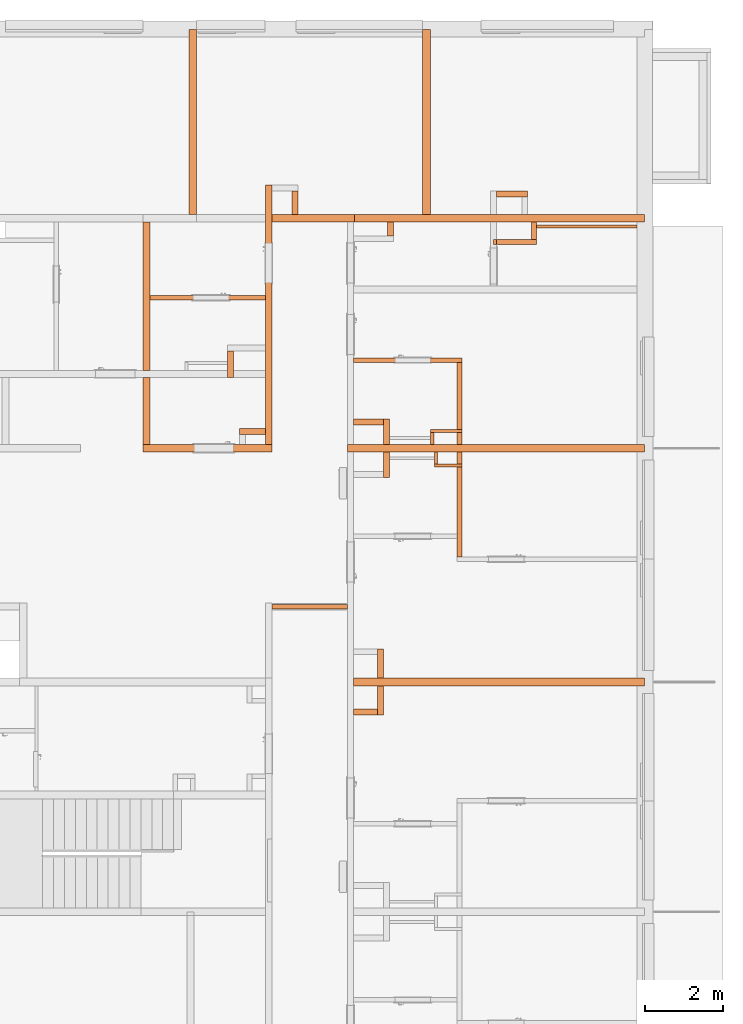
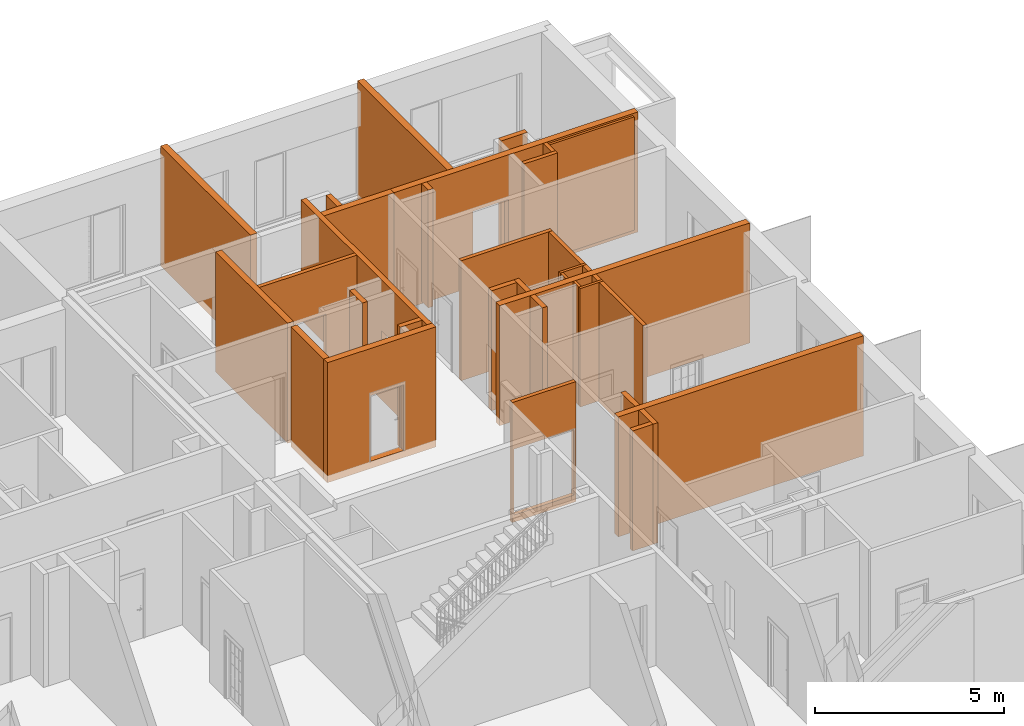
# One storey, part 45 of 46: 32 proxies, 8 openings.
"""IFC2X3 building model written with IfcOpenShell, lengths in millimetres."""

from ifc_helpers import new_model, entity, si_unit, converted_unit, derived_unit, money_unit, direction, frame, origin_with_axes, origin_2d_with_axis, place, context, subcontext, project, spatial, rectangle, extrude, faceted_brep, material, material_list, type_object, element, save


model = new_model("IFC2X3")

# Units and contexts
model_context = context("Model", 3, precision=0.01, world=origin_with_axes(), true_north=direction((0.34421633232, 0.938890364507)))
body_context = subcontext(model_context, "Body", "Model", "MODEL_VIEW")
ifc_project = project(units=[si_unit("LENGTHUNIT", "METRE", prefix="MILLI"), si_unit("AREAUNIT", "SQUARE_METRE"), si_unit("VOLUMEUNIT", "CUBIC_METRE"), converted_unit("PLANEANGLEUNIT", "DEGREE", entity("IfcPlaneAngleMeasure", 0.0174532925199), si_unit("PLANEANGLEUNIT", "RADIAN"), dimensions=[0, 0, 0, 0, 0, 0, 0]), si_unit("SOLIDANGLEUNIT", "STERADIAN"), money_unit("USD"), converted_unit("TIMEUNIT", "Year", entity("IfcTimeMeasure", 31556926.0), si_unit("TIMEUNIT", "SECOND"), dimensions=[0, 0, 1, 0, 0, 0, 0]), si_unit("MASSUNIT", "GRAM", prefix="KILO"), si_unit("THERMODYNAMICTEMPERATUREUNIT", "DEGREE_CELSIUS"), si_unit("LUMINOUSINTENSITYUNIT", "LUMEN"), si_unit("ENERGYUNIT", "JOULE", prefix="MEGA"), derived_unit("THERMALCONDUCTANCEUNIT", [(si_unit("POWERUNIT", "WATT"), 1), (si_unit("LENGTHUNIT", "METRE"), -1), (si_unit("THERMODYNAMICTEMPERATUREUNIT", "KELVIN"), -1)]), derived_unit("SPECIFICHEATCAPACITYUNIT", [(si_unit("ENERGYUNIT", "JOULE"), 1), (si_unit("MASSUNIT", "GRAM", prefix="KILO"), -1), (si_unit("THERMODYNAMICTEMPERATUREUNIT", "KELVIN"), -1)]), derived_unit("MASSDENSITYUNIT", [(si_unit("MASSUNIT", "GRAM", prefix="KILO"), 1), (si_unit("VOLUMEUNIT", "CUBIC_METRE"), -1)])], contexts=[model_context])

# Site, building, storey
site_placement = place(None, origin_with_axes())
site = spatial("IfcSite", under=ifc_project, at=site_placement, Name="USTRONIE MORSKIE", CompositionType="ELEMENT")
building_placement = place(site_placement, origin_with_axes())
building = spatial("IfcBuilding", under=site, at=building_placement, Name="Budynek", CompositionType="ELEMENT")
storey_placement = place(building_placement, origin_with_axes())
storey = spatial("IfcBuildingStorey", under=building, at=storey_placement, Name="PARTER", CompositionType="ELEMENT", Elevation=0.0)

# Proxy
ifc_material_1 = material(Name="Bloczki silikatowe")
building_element_proxy_type_1 = type_object("IfcBuildingElementProxyType", Name="Bloczki silikatowe 120", PredefinedType="NOTDEFINED")
proxy_1_placement = place(storey_placement, frame((422827.920919, 744091.199036, -230.0), z_axis=(0.0, 0.0, 1.0), x_axis=(0.0, 1.0, 0.0)))
element("IfcBuildingElementProxy", 1, at=proxy_1_placement, inside=storey, type_object=building_element_proxy_type_1, material=ifc_material_1, Name="SW-04", context=body_context, shape_type="Brep", body=[
    faceted_brep([(510.0, -60.0, 3870.0), (510.0, 60.0, 3870.0), (59.9999999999, 60.0, 3870.0), (59.9999999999, -60.0, 3870.0), (510.0, -60.0, 0.0), (510.0, 60.0, 0.0), (59.9999999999, 60.0, 0.0), (59.9999999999, -60.0, 0.0)], [[[0, 1, 2, 3]], [[1, 0, 4, 5]], [[1, 5, 6, 2]], [[7, 3, 2, 6]], [[4, 0, 3, 7]], [[5, 4, 7, 6]]]),
])

# Proxy, opening
proxy_2_placement = place(storey_placement, frame((418117.920919, 734731.199175, -230.0), z_axis=(0.0, 0.0, 1.0), x_axis=(-1.0, 0.0, 0.0)))
proxy_2 = element("IfcBuildingElementProxy", 2, at=proxy_2_placement, inside=storey, type_object=building_element_proxy_type_1, material=ifc_material_1, Name="SW-04", context=body_context, shape_type="Brep", body=[
    faceted_brep([(2020.00264606, -59.9999999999, 3870.0), (2020.00264606, 59.9999999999, 3870.0), (80.0, 59.9999999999, 3870.0), (80.0, -59.9999999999, 3870.0), (2020.00264606, -59.9999999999, 0.0), (2020.00264606, 59.9999999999, 0.0), (80.0, 59.9999999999, 0.0), (80.0, -59.9999999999, 0.0)], [[[0, 1, 2, 3]], [[1, 0, 4, 5]], [[1, 5, 6, 2]], [[7, 3, 2, 6]], [[4, 0, 3, 7]], [[5, 4, 7, 6]]]),
])
opening_1_placement = place(proxy_2_placement, frame((1050.0, 0.0, 230.0), z_axis=(0.0, 0.0, 1.0), x_axis=(1.0, 0.0, 0.0)))
element("IfcOpeningElement", 3, at=opening_1_placement, cuts=proxy_2, Name="Dw.5", context=body_context, shape_type="SweptSolid", body=[
    extrude(rectangle(XDim=1820.0, YDim=2120.0, at=origin_2d_with_axis()), frame((0.0, -120.0, 1060.0), z_axis=(0.0, 1.0, 0.0), x_axis=(1.0, 0.0, 0.0)), (0.0, 0.0, 1.0), 360.0),
    extrude(rectangle(XDim=1894.0, YDim=2157.0, at=origin_2d_with_axis()), frame((0.0, -59.9999999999, 1078.5), z_axis=(0.0, 1.0, 0.0), x_axis=(1.0, 0.0, 0.0)), (0.0, 0.0, -1.0), 120.0),
    extrude(rectangle(XDim=1894.0, YDim=2157.0, at=origin_2d_with_axis()), frame((0.0, 60.0000000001, 1078.5), z_axis=(0.0, -1.0, 0.0), x_axis=(1.0, 0.0, 0.0)), (0.0, 0.0, -1.0), 120.0),
])

proxy_3_placement = place(storey_placement, frame((420917.920919, 741061.20794, -230.0), z_axis=(0.0, 0.0, 1.0), x_axis=(-1.0, 0.0, 0.0)))
proxy_3 = element("IfcBuildingElementProxy", 4, at=proxy_3_placement, inside=storey, type_object=building_element_proxy_type_1, material=ifc_material_1, Name="SW-04", context=body_context, shape_type="Brep", body=[
    faceted_brep([(2720.0, -59.9999999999, 3870.0), (2720.0, 59.9999999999, 3870.0), (-60.0, 59.9999999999, 3870.0), (-60.0, -59.9999999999, 3870.0), (2720.0, -59.9999999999, 0.0), (2720.0, 59.9999999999, 0.0), (-60.0, 59.9999999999, 0.0), (-60.0, -59.9999999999, 0.0)], [[[0, 1, 2, 3]], [[1, 0, 4, 5]], [[1, 5, 6, 2]], [[7, 3, 2, 6]], [[4, 0, 3, 7]], [[5, 4, 7, 6]]]),
])
opening_2_placement = place(proxy_3_placement, frame((1200.0, 0.0, 230.0), z_axis=(0.0, 0.0, 1.0), x_axis=(1.0, 0.0, 0.0)))
element("IfcOpeningElement", 5, at=opening_2_placement, cuts=proxy_3, Name="Dw.4", context=body_context, shape_type="SweptSolid", body=[
    extrude(rectangle(XDim=920.0, YDim=2070.0, at=origin_2d_with_axis()), frame((0.0, 120.0, 1035.0), z_axis=(0.0, -1.0, 0.0), x_axis=(-1.0, 0.0, 0.0)), (0.0, 0.0, 1.0), 360.0),
    extrude(rectangle(XDim=994.0, YDim=2177.0, at=origin_2d_with_axis()), frame((0.0, 60.0000000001, 1088.5), z_axis=(0.0, -1.0, 0.0), x_axis=(-1.0, 0.0, 0.0)), (0.0, 0.0, -1.0), 120.0),
    extrude(rectangle(XDim=994.0, YDim=2177.0, at=origin_2d_with_axis()), frame((0.0, -59.9999999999, 1088.5), z_axis=(0.0, 1.0, 0.0), x_axis=(-1.0, 0.0, 0.0)), (0.0, 0.0, -1.0), 120.0),
])

proxy_4_placement = place(storey_placement, frame((412877.920964, 742661.199128, -230.0), z_axis=(0.0, 0.0, 1.0), x_axis=(1.0, 0.0, 0.0)))
proxy_4 = element("IfcBuildingElementProxy", 6, at=proxy_4_placement, inside=storey, type_object=building_element_proxy_type_1, material=ifc_material_1, Name="SW-04", context=body_context, shape_type="Brep", body=[
    faceted_brep([(3059.99730875, -59.9999999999, 3870.0), (3059.99730875, 59.9999999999, 3870.0), (90.0, 59.9999999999, 3870.0), (90.0, -59.9999999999, 3870.0), (3059.99730875, -59.9999999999, 0.0), (3059.99730875, 59.9999999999, 0.0), (90.0, 59.9999999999, 0.0), (90.0, -59.9999999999, 0.0)], [[[0, 1, 2, 3]], [[1, 0, 4, 5]], [[1, 5, 6, 2]], [[7, 3, 2, 6]], [[4, 0, 3, 7]], [[5, 4, 7, 6]]]),
])
opening_3_placement = place(proxy_4_placement, frame((1660.0, 0.0, 230.0), z_axis=(0.0, 0.0, 1.0), x_axis=(1.0, 0.0, 0.0)))
element("IfcOpeningElement", 7, at=opening_3_placement, cuts=proxy_4, Name="Dw.4", context=body_context, shape_type="SweptSolid", body=[
    extrude(rectangle(XDim=920.0, YDim=2070.0, at=origin_2d_with_axis()), frame((0.0, 120.0, 1035.0), z_axis=(0.0, 1.0, 0.0), x_axis=(-1.0, 0.0, 0.0)), (0.0, 0.0, -1.0), 360.0),
    extrude(rectangle(XDim=994.0, YDim=2177.0, at=origin_2d_with_axis()), frame((0.0, 60.0000000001, 1088.5), z_axis=(0.0, 1.0, 0.0), x_axis=(-1.0, 0.0, 0.0)), (0.0, 0.0, 1.0), 120.0),
    extrude(rectangle(XDim=994.0, YDim=2177.0, at=origin_2d_with_axis()), frame((0.0, -59.9999999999, 1088.5), z_axis=(0.0, -1.0, 0.0), x_axis=(-1.0, 0.0, 0.0)), (0.0, 0.0, 1.0), 120.0),
])

# Proxies
proxy_5_placement = place(storey_placement, frame((421792.920919, 744091.199036, -230.0), z_axis=(0.0, 0.0, 1.0), x_axis=(1.0, 0.0, 0.0)))
element("IfcBuildingElementProxy", 8, at=proxy_5_placement, inside=storey, type_object=building_element_proxy_type_1, material=ifc_material_1, Name="SW-04", context=body_context, shape_type="Brep", body=[
    faceted_brep([(0.0, 59.9999999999, 0.0), (0.0, 59.9999999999, 50.0), (75.0, 59.9999999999, 50.0), (75.0, 59.9999999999, 3870.0), (1095.0, 59.9999999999, 3870.0), (1095.0, 59.9999999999, 0.0), (0.0, -59.9999999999, 0.0), (0.0, -59.9999999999, 50.0), (75.0, -59.9999999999, 50.0), (75.0, -59.9999999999, 3870.0), (1095.0, -59.9999999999, 3870.0), (1095.0, -59.9999999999, 0.0)], [[[0, 1, 2, 3, 4, 5]], [[6, 7, 1, 0]], [[8, 2, 1, 7]], [[8, 9, 3, 2]], [[4, 3, 9, 10]], [[11, 5, 4, 10]], [[5, 11, 6, 0]], [[9, 8, 7, 6, 11, 10]]]),
])
proxy_6_placement = place(storey_placement, frame((420917.920919, 738801.202745, -230.0), z_axis=(0.0, 0.0, 1.0), x_axis=(0.0, 1.0, 0.0)))
element("IfcBuildingElementProxy", 9, at=proxy_6_placement, inside=storey, type_object=building_element_proxy_type_1, material=ifc_material_1, Name="SW-04", context=body_context, shape_type="Brep", body=[
    faceted_brep([(400.015445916, -60.0, 3870.0), (400.015445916, 60.0, 3870.0), (99.999912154, 60.0, 3870.0), (100.000087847, -60.0, 3870.0), (400.015445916, -60.0, 0.0), (400.015445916, 60.0, 0.0), (99.999912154, 60.0, 0.0), (100.000087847, -60.0, 0.0)], [[[0, 1, 2, 3]], [[1, 0, 4, 5]], [[1, 5, 6, 2]], [[7, 3, 2, 6]], [[4, 0, 3, 7]], [[5, 4, 7, 6]]]),
    faceted_brep([(2200.00519406, -60.0, 3870.0), (2200.00519406, 60.0, 3870.0), (480.015445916, 60.0, 3870.0), (480.015445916, -60.0, 3870.0), (2200.00519406, -60.0, 0.0), (2200.00519406, 60.0, 0.0), (480.015445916, 60.0, 0.0), (480.015445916, -60.0, 0.0)], [[[0, 1, 2, 3]], [[1, 0, 4, 5]], [[1, 5, 6, 2]], [[7, 3, 2, 6]], [[4, 0, 3, 7]], [[5, 4, 7, 6]]]),
])
proxy_7_placement = place(storey_placement, frame((420917.920919, 738801.199036, -230.0), z_axis=(0.0, 0.0, 1.0), x_axis=(0.0, -1.0, 0.0)))
element("IfcBuildingElementProxy", 10, at=proxy_7_placement, inside=storey, type_object=building_element_proxy_type_1, material=ifc_material_1, Name="SW-04", context=body_context, shape_type="Brep", body=[
    faceted_brep([(100.000390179, -60.0, 3869.99998101), (400.01915523, -60.0, 3870.0), (400.01915523, 60.0, 3870.0), (100.000390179, 60.0, 3869.99998101), (480.01915523, -60.0, 50.0), (400.01915523, -60.0, 50.0), (100.000390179, -60.0, 0.0), (2790.01935038, -60.0, 0.0), (2790.01935038, -60.0, 3870.0), (480.01915523, -60.0, 3870.0), (400.01915523, 60.0, 50.0), (480.01915523, 60.0, 50.0), (480.01915523, 60.0, 3870.0), (2790.01935038, 60.0, 3870.0), (2790.01935038, 60.0, 0.0), (100.000390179, 60.0, 0.0)], [[[0, 1, 2, 3]], [[4, 5, 1, 0, 6, 7, 8, 9]], [[5, 10, 2, 1]], [[10, 11, 12, 13, 14, 15, 3, 2]], [[6, 0, 3, 15]], [[4, 11, 10, 5]], [[7, 6, 15, 14]], [[13, 8, 7, 14]], [[13, 12, 9, 8]], [[4, 9, 12, 11]]]),
])
building_element_proxy_type_2 = type_object("IfcBuildingElementProxyType", Name="Bloczki silikatowe 180", PredefinedType="NOTDEFINED")
proxy_8_placement = place(storey_placement, frame((412877.920964, 744701.199036, -230.0), z_axis=(0.0, 0.0, 1.0), x_axis=(0.0, -1.0, 0.0)))
element("IfcBuildingElementProxy", 11, at=proxy_8_placement, inside=storey, type_object=building_element_proxy_type_2, material=ifc_material_1, Name="SW-02", context=body_context, shape_type="Brep", body=[
    faceted_brep([(5800.0, 90.0, 0.0), (5800.0, -90.0, 0.0), (4080.01956003, -90.0, 0.0), (4080.01956003, 90.0, 0.0), (5800.0, 90.0, 3870.0), (5800.0, -90.0, 3870.0), (4080.01956003, -90.0, 3870.0), (4080.01956003, 90.0, 3870.0)], [[[0, 1, 2, 3]], [[1, 0, 4, 5]], [[1, 5, 6, 2]], [[7, 3, 2, 6]], [[4, 0, 3, 7]], [[5, 4, 7, 6]]]),
    faceted_brep([(3900.01956003, 90.0, 0.0), (3900.01956003, -90.0, 0.0), (100.0, -90.0, 0.0), (100.0, 90.0, 0.0), (3900.01956003, 90.0, 3870.0), (3900.01956003, -90.0, 3870.0), (100.0, -90.0, 3870.0), (100.0, 90.0, 3870.0)], [[[0, 1, 2, 3]], [[1, 0, 4, 5]], [[1, 5, 6, 2]], [[7, 3, 2, 6]], [[4, 0, 3, 7]], [[5, 4, 7, 6]]]),
])
ifc_material_2 = material(Name="-Pustka powietrzna")
ifc_material_3 = material(Name="Płyta GK")
ifc_material_list = material_list([ifc_material_2, ifc_material_3, ifc_material_3])
building_element_proxy_type_3 = type_object("IfcBuildingElementProxyType", Name="330-SD GK 2-warstwy 75", PredefinedType="NOTDEFINED")
proxy_9_placement = place(storey_placement, frame((422827.920919, 744481.199036, -180.0), z_axis=(0.0, 0.0, 1.0), x_axis=(1.0, 0.0, 0.0)))
element("IfcBuildingElementProxy", 12, at=proxy_9_placement, inside=storey, type_object=building_element_proxy_type_3, material=ifc_material_list, Name="Ściana-009", context=body_context, shape_type="Brep", body=[
    faceted_brep([(2639.99960996, -7.95807864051e-10, 180.0), (2639.99960929, 49.9999999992, 180.0), (2640.0, 49.9999999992, 3820.0), (2640.0, -7.95807864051e-10, 3820.0), (60.0, 50.0, 180.0), (60.0, 0.0, 180.0), (60.0, 50.0, 3820.0), (60.0, 0.0, 3820.0)], [[[0, 1, 2, 3]], [[4, 1, 0, 5]], [[1, 4, 6, 2]], [[7, 3, 2, 6]], [[5, 0, 3, 7]], [[4, 5, 7, 6]]]),
    faceted_brep([(2639.99961013, -12.5000000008, 165.0), (2639.99960996, -7.95807864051e-10, 165.0), (2640.0, -7.95807864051e-10, 3820.0), (2640.0, -12.5000000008, 3820.0), (60.0, 0.0, 165.0), (60.0, -12.5, 165.0), (60.0, 0.0, 3820.0), (60.0, -12.5, 3820.0)], [[[0, 1, 2, 3]], [[4, 1, 0, 5]], [[1, 4, 6, 2]], [[7, 3, 2, 6]], [[5, 0, 3, 7]], [[4, 5, 7, 6]]]),
    faceted_brep([(2639.99961029, -25.0000000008, 165.0), (2639.99961013, -12.5000000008, 165.0), (2640.0, -12.5000000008, 3820.0), (2640.0, -25.0000000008, 3820.0), (60.0, -12.5, 165.0), (60.0, -25.0, 165.0), (60.0, -12.5, 3820.0), (60.0, -25.0, 3820.0)], [[[0, 1, 2, 3]], [[4, 1, 0, 5]], [[1, 4, 6, 2]], [[7, 3, 2, 6]], [[5, 0, 3, 7]], [[4, 5, 7, 6]]]),
])
building_element_proxy_type_4 = type_object("IfcBuildingElementProxyType", Name="Bloczki silikatowe 80", PredefinedType="NOTDEFINED")
proxy_10_placement = place(storey_placement, frame((420217.920919, 738801.19863, -230.0), z_axis=(0.0, 0.0, 1.0), x_axis=(0.0, 1.0, 0.0)))
element("IfcBuildingElementProxy", 13, at=proxy_10_placement, inside=storey, type_object=building_element_proxy_type_4, material=ifc_material_1, Name="Ściana-010", context=body_context, shape_type="Brep", body=[
    faceted_brep([(400.019561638, -40.0, 3870.0), (400.019561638, 40.0, 3870.0), (100.003032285, 40.0, 3870.0), (100.003149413, -40.0, 3870.0), (400.019561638, -40.0, 0.0), (400.019561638, 40.0, 0.0), (100.003032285, 40.0, 0.0), (100.003149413, -40.0, 0.0)], [[[0, 1, 2, 3]], [[1, 0, 4, 5]], [[1, 5, 6, 2]], [[7, 3, 2, 6]], [[4, 0, 3, 7]], [[5, 4, 7, 6]]]),
])
proxy_11_placement = place(storey_placement, frame((420917.920919, 738361.179881, -180.0), z_axis=(0.0, 0.0, 1.0), x_axis=(-1.0, 0.0, 0.0)))
element("IfcBuildingElementProxy", 14, at=proxy_11_placement, inside=storey, type_object=building_element_proxy_type_4, material=ifc_material_1, Name="Ściana-009", context=body_context, shape_type="Brep", body=[
    faceted_brep([(640.0, 40.0, 0.0), (640.0, -40.0, 0.0), (-60.0, -40.0, 0.0), (-60.0, 40.0, 0.0), (640.0, 40.0, 3820.0), (640.0, -40.0, 3820.0), (-60.0, -40.0, 3820.0), (-60.0, 40.0, 3820.0)], [[[0, 1, 2, 3]], [[1, 0, 4, 5]], [[1, 5, 6, 2]], [[7, 3, 2, 6]], [[4, 0, 3, 7]], [[5, 4, 7, 6]]]),
])
proxy_12_placement = place(storey_placement, frame((420917.920919, 739241.218191, -230.0), z_axis=(0.0, 0.0, 1.0), x_axis=(-1.0, 0.0, 0.0)))
element("IfcBuildingElementProxy", 15, at=proxy_12_placement, inside=storey, type_object=building_element_proxy_type_4, material=ifc_material_1, Name="Ściana-009", context=body_context, shape_type="Brep", body=[
    faceted_brep([(740.0, -40.0, 3870.0), (740.0, 40.0, 3870.0), (-60.0, 40.0, 3870.0), (-60.0, -40.0, 3870.0), (740.0, -40.0, 0.0), (740.0, 40.0, 0.0), (-60.0, 40.0, 0.0), (-60.0, -40.0, 0.0)], [[[0, 1, 2, 3]], [[1, 0, 4, 5]], [[1, 5, 6, 2]], [[7, 3, 2, 6]], [[4, 0, 3, 7]], [[5, 4, 7, 6]]]),
])
proxy_13_placement = place(storey_placement, frame((420317.920919, 738801.201867, -180.0), z_axis=(0.0, 0.0, 1.0), x_axis=(0.0, -1.0, 0.0)))
element("IfcBuildingElementProxy", 16, at=proxy_13_placement, inside=storey, type_object=building_element_proxy_type_4, material=ifc_material_1, Name="Ściana-010", context=body_context, shape_type="Brep", body=[
    faceted_brep([(400.021986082, 40.0, 0.0), (400.021986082, -40.0, 0.0), (100.000058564, -40.0, 0.0), (99.999941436, 40.0, 0.0), (400.021986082, 40.0, 3820.0), (400.021986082, -40.0, 3820.0), (100.000058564, -40.0, 3820.0), (99.999941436, 40.0, 3820.0)], [[[0, 1, 2, 3]], [[1, 0, 4, 5]], [[1, 5, 6, 2]], [[7, 3, 2, 6]], [[4, 0, 3, 7]], [[5, 4, 7, 6]]]),
])
building_element_proxy_type_5 = type_object("IfcBuildingElementProxyType", Name="Bloczki silikatowe 150", PredefinedType="NOTDEFINED")
proxy_14_placement = place(storey_placement, frame((419042.92182, 738801.200841, -230.0), z_axis=(0.0, 0.0, 1.0), x_axis=(0.0, -1.0, 0.0)))
element("IfcBuildingElementProxy", 17, at=proxy_14_placement, inside=storey, type_object=building_element_proxy_type_5, material=ifc_material_1, Name="Ściana-009", context=body_context, shape_type="Brep", body=[
    faceted_brep([(749.999518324, 75.0, 0.0), (749.999518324, -75.0, 0.0), (100.000950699, -75.0, 0.0), (100.000731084, 75.0, 0.0), (749.999518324, 75.0, 3870.0), (749.999518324, -75.0, 3870.0), (100.000950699, -75.0, 3870.0), (100.000731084, 75.0, 3870.0)], [[[0, 1, 2, 3]], [[1, 0, 4, 5]], [[1, 5, 6, 2]], [[7, 3, 2, 6]], [[4, 0, 3, 7]], [[5, 4, 7, 6]]]),
])
proxy_15_placement = place(storey_placement, frame((415042.919124, 740711.179476, -230.0), z_axis=(0.0, 0.0, 1.0), x_axis=(0.0, 1.0, 0.0)))
element("IfcBuildingElementProxy", 18, at=proxy_15_placement, inside=storey, type_object=building_element_proxy_type_5, material=ifc_material_1, Name="SW-04", context=body_context, shape_type="Brep", body=[
    faceted_brep([(590.00090117, 75.0, 0.0), (590.00090117, -75.0, 0.0), (-90.0, -75.0, 0.0), (-90.0, 75.0, 0.0), (590.00090117, 75.0, 3870.0), (590.00090117, -75.0, 3870.0), (-90.0, -75.0, 3870.0), (-90.0, 75.0, 3870.0)], [[[0, 1, 2, 3]], [[1, 0, 4, 5]], [[1, 5, 6, 2]], [[7, 3, 2, 6]], [[4, 0, 3, 7]], [[5, 4, 7, 6]]]),
])
proxy_16_placement = place(storey_placement, frame((418817.920919, 732101.199036, -230.0), z_axis=(0.0, 0.0, 1.0), x_axis=(-1.0, 0.0, 0.0)))
element("IfcBuildingElementProxy", 19, at=proxy_16_placement, inside=storey, type_object=building_element_proxy_type_5, material=ifc_material_1, Name="SW-03", context=body_context, shape_type="Brep", body=[
    faceted_brep([(620.0, 150.0, 0.0), (620.0, 0.0, 0.0), (0.0, 0.0, 0.0), (0.0, 150.0, 0.0), (620.0, 150.0, 3870.0), (620.0, 0.0, 3870.0), (0.0, 0.0, 3870.0), (0.0, 150.0, 3870.0)], [[[0, 1, 2, 3]], [[1, 0, 4, 5]], [[1, 5, 6, 2]], [[7, 3, 2, 6]], [[4, 0, 3, 7]], [[5, 4, 7, 6]]]),
])
proxy_17_placement = place(storey_placement, frame((416707.920089, 744701.199036, -160.0), z_axis=(0.0, 0.0, 1.0), x_axis=(0.0, 1.0, 0.0)))
element("IfcBuildingElementProxy", 20, at=proxy_17_placement, inside=storey, type_object=building_element_proxy_type_5, material=ifc_material_1, Name="SW-03", context=body_context, shape_type="Brep", body=[
    faceted_brep([(700.00090117, 90.0, 0.0), (700.00090117, -60.0, 0.0), (100.0, -60.0, 0.0), (100.0, 90.0, 0.0), (700.00090117, 90.0, 3800.0), (700.00090117, -60.0, 3800.0), (100.0, -60.0, 3800.0), (100.0, 90.0, 3800.0)], [[[0, 1, 2, 3]], [[1, 0, 4, 5]], [[1, 5, 6, 2]], [[7, 3, 2, 6]], [[4, 0, 3, 7]], [[5, 4, 7, 6]]]),
])
proxy_18_placement = place(storey_placement, frame((419042.92182, 738801.2, -230.0), z_axis=(0.0, 0.0, 1.0), x_axis=(0.0, 1.0, 0.0)))
element("IfcBuildingElementProxy", 21, at=proxy_18_placement, inside=storey, type_object=building_element_proxy_type_5, material=ifc_material_1, Name="Ściana-009", context=body_context, shape_type="Brep", body=[
    faceted_brep([(749.999518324, 75.0, 3870.0), (99.9986457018, 75.0, 3870.0), (99.9986457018, -75.0, 3870.0), (749.999518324, -75.0, 3870.0), (749.999518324, 75.0, 0.0), (99.9986457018, 75.0, 1.89872060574e-05), (99.9986457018, -75.0, 1.89872060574e-05), (749.999518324, -75.0, 0.0)], [[[0, 1, 2, 3]], [[4, 5, 1, 0]], [[5, 6, 2, 1]], [[3, 2, 6, 7]], [[7, 4, 0, 3]], [[7, 6, 5, 4]]]),
])
proxy_19_placement = place(storey_placement, frame((419157.92182, 744701.199036, -160.0), z_axis=(0.0, 0.0, 1.0), x_axis=(0.0, -1.0, 0.0)))
element("IfcBuildingElementProxy", 22, at=proxy_19_placement, inside=storey, type_object=building_element_proxy_type_5, material=ifc_material_1, Name="SW-03", context=body_context, shape_type="Brep", body=[
    faceted_brep([(450.0, -90.0, 3800.0), (450.0, 60.0, 3800.0), (100.0, 60.0, 3800.0), (100.0, -90.0, 3800.0), (450.0, -90.0, 0.0), (450.0, 60.0, 0.0), (100.0, 60.0, 0.0), (100.0, -90.0, 0.0)], [[[0, 1, 2, 3]], [[1, 0, 4, 5]], [[1, 5, 6, 2]], [[7, 3, 2, 6]], [[4, 0, 3, 7]], [[5, 4, 7, 6]]]),
])
proxy_20_placement = place(storey_placement, frame((415342.919124, 739226.199937, -230.0), z_axis=(0.0, 0.0, 1.0), x_axis=(1.0, 0.0, 0.0)))
element("IfcBuildingElementProxy", 23, at=proxy_20_placement, inside=storey, type_object=building_element_proxy_type_5, material=ifc_material_1, Name="SW-04", context=body_context, shape_type="Brep", body=[
    faceted_brep([(594.999148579, 75.0, 0.0), (594.999148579, -75.0, 0.0), (-75.0, -75.0, 0.0), (-75.0, 75.0, 0.0), (594.999148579, 75.0, 3870.0), (594.999148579, -75.0, 3870.0), (-75.0, -75.0, 3870.0), (-75.0, 75.0, 3870.0)], [[[0, 1, 2, 3]], [[1, 0, 4, 5]], [[1, 5, 6, 2]], [[7, 3, 2, 6]], [[4, 0, 3, 7]], [[5, 4, 7, 6]]]),
])
proxy_21_placement = place(storey_placement, frame((419042.92182, 739476.199519, -230.0), z_axis=(0.0, 0.0, 1.0), x_axis=(-1.0, 0.0, 0.0)))
element("IfcBuildingElementProxy", 24, at=proxy_21_placement, inside=storey, type_object=building_element_proxy_type_5, material=ifc_material_1, Name="Ściana-009", context=body_context, shape_type="Brep", body=[
    faceted_brep([(845.00090117, -75.0, 3870.0), (845.00090117, 75.0, 3870.0), (75.0, 75.0, 3870.0), (75.0, -75.0, 3870.0), (845.00090117, -75.0, 0.0), (845.00090117, 75.0, 0.0), (75.0, 75.0, 0.0), (75.0, -75.0, 0.0)], [[[0, 1, 2, 3]], [[1, 0, 4, 5]], [[1, 5, 6, 2]], [[7, 3, 2, 6]], [[4, 0, 3, 7]], [[5, 4, 7, 6]]]),
])
proxy_22_placement = place(storey_placement, frame((418817.920919, 732801.199074, -230.0), z_axis=(0.0, 0.0, 1.0), x_axis=(0.0, -1.0, 0.0)))
element("IfcBuildingElementProxy", 25, at=proxy_22_placement, inside=storey, type_object=building_element_proxy_type_5, material=ifc_material_1, Name="SW-03", context=body_context, shape_type="Brep", body=[
    faceted_brep([(850.000037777, 150.0, 0.0), (100.000037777, 150.0, 0.0), (100.000037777, 150.0, 3869.99998101), (850.000037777, 150.0, 3870.0), (850.000037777, 0.0, 0.0), (100.000037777, 0.0, 0.0), (100.000037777, 0.0, 3869.99998101), (850.000037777, 0.0, 3870.0)], [[[0, 1, 2, 3]], [[4, 5, 1, 0]], [[5, 6, 2, 1]], [[3, 2, 6, 7]], [[3, 7, 4, 0]], [[7, 6, 5, 4]]]),
])
proxy_23_placement = place(storey_placement, frame((418817.920919, 732801.198998, -230.0), z_axis=(0.0, 0.0, 1.0), x_axis=(0.0, 1.0, 0.0)))
element("IfcBuildingElementProxy", 26, at=proxy_23_placement, inside=storey, type_object=building_element_proxy_type_5, material=ifc_material_1, Name="SW-03", context=body_context, shape_type="Brep", body=[
    faceted_brep([(850.01751244, -150.0, 3870.0), (850.01751244, 0.0, 3870.0), (100.000037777, 0.0, 3870.0), (100.000037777, -150.0, 3870.0), (850.01751244, -150.0, 0.0), (850.01751244, 0.0, 0.0), (100.000037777, 0.0, 0.0), (100.000037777, -150.0, 0.0)], [[[0, 1, 2, 3]], [[1, 0, 4, 5]], [[1, 5, 6, 2]], [[7, 3, 2, 6]], [[4, 0, 3, 7]], [[5, 4, 7, 6]]]),
])
proxy_24_placement = place(storey_placement, frame((422592.920919, 745326.199036, -160.0), z_axis=(0.0, 0.0, 1.0), x_axis=(-1.0, 0.0, 0.0)))
element("IfcBuildingElementProxy", 27, at=proxy_24_placement, inside=storey, type_object=building_element_proxy_type_5, material=ifc_material_1, Name="Œciana-007", context=body_context, shape_type="Brep", body=[
    faceted_brep([(725.0, 75.0, 0.0), (725.0, -75.0, 0.0), (-75.0, -75.0, 0.0), (-75.0, 75.0, 0.0), (725.0, 75.0, 3800.0), (725.0, -75.0, 3800.0), (-75.0, -75.0, 3800.0), (-75.0, 75.0, 3800.0)], [[[0, 1, 2, 3]], [[1, 0, 4, 5]], [[1, 5, 6, 2]], [[7, 3, 2, 6]], [[4, 0, 3, 7]], [[5, 4, 7, 6]]]),
])
ifc_material_4 = material(Name="Beton konstrukcyjny B25")
building_element_proxy_type_6 = type_object("IfcBuildingElementProxyType", Name="Beton konstrukcyjny B25 200", PredefinedType="NOTDEFINED")
proxy_25_placement = place(storey_placement, frame((425567.920919, 732801.199036, -230.0), z_axis=(0.0, 0.0, 1.0), x_axis=(-1.0, 0.0, 0.0)))
element("IfcBuildingElementProxy", 28, at=proxy_25_placement, inside=storey, type_object=building_element_proxy_type_6, material=ifc_material_4, Name="SW-01", context=body_context, shape_type="Brep", body=[
    faceted_brep([(-100.0, 100.0, 3870.0), (-100.0, 100.0, 0.0), (-100.0, -100.0, 0.0), (-100.0, -100.0, 3870.0), (7370.0, 100.0, 0.0), (7370.0, 100.0, 3870.0), (7370.0, -99.9999999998, 0.0), (7370.0, -99.9999999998, 3870.0)], [[[0, 1, 2, 3]], [[4, 1, 0, 5]], [[6, 2, 1, 4]], [[3, 2, 6, 7]], [[5, 0, 3, 7]], [[5, 7, 6, 4]]]),
])
proxy_26_placement = place(storey_placement, frame((420067.920919, 749451.199036, -230.0), z_axis=(0.0, 0.0, 1.0), x_axis=(0.0, -1.0, 0.0)))
element("IfcBuildingElementProxy", 29, at=proxy_26_placement, inside=storey, type_object=building_element_proxy_type_6, material=ifc_material_4, Name="SW-01", context=body_context, shape_type="Brep", body=[
    faceted_brep([(4650.0, 100.0, 0.0), (-100.0, 100.0, 0.0), (-99.9902289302, 100.0, 3870.0), (4650.0, 100.0, 3870.0), (4650.0, -100.0, 0.0), (-100.0, -100.0, 0.0), (-99.9903973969, -100.0, 3870.0), (4650.0, -100.0, 3870.0)], [[[0, 1, 2, 3]], [[4, 5, 1, 0]], [[2, 1, 5, 6]], [[6, 7, 3, 2]], [[7, 4, 0, 3]], [[6, 5, 4, 7]]]),
])

# Proxy, opening
proxy_27_placement = place(storey_placement, frame((425567.925634, 744701.199036, -230.0), z_axis=(0.0, 0.0, 1.0), x_axis=(-1.0, 0.0, 0.0)))
proxy_27 = element("IfcBuildingElementProxy", 30, at=proxy_27_placement, inside=storey, type_object=building_element_proxy_type_6, material=ifc_material_4, Name="SW-01", context=body_context, shape_type="Brep", body=[
    faceted_brep([(-99.9952848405, 100.0, 3870.0), (-99.9952848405, 100.0, 0.0), (-99.9952848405, -100.0, 0.0), (-99.9952848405, -100.0, 3870.0), (7345.00429057, 100.0, 0.0), (7345.00429057, 100.0, 3870.0), (7345.00429057, -100.0, 0.0), (7345.00429057, -100.0, 3870.0)], [[[0, 1, 2, 3]], [[4, 1, 0, 5]], [[6, 2, 1, 4]], [[3, 2, 6, 7]], [[5, 0, 3, 7]], [[6, 4, 5, 7]]]),
])
opening_4_placement = place(proxy_27_placement, frame((4390.00471516, 0.0, 230.0), z_axis=(0.0, 0.0, 1.0), x_axis=(1.0, 0.0, 0.0)))
element("IfcOpeningElement", 31, at=opening_4_placement, cuts=proxy_27, Name="xx", context=body_context, shape_type="SweptSolid", body=[
    extrude(rectangle(XDim=1080.0, YDim=2200.0, at=origin_2d_with_axis()), frame((0.0, -100.0, 1100.0), z_axis=(0.0, 1.0, 0.0), x_axis=(1.0, 0.0, 0.0)), (0.0, 0.0, -1.0), 200.0),
    extrude(rectangle(XDim=1080.0, YDim=2200.0, at=origin_2d_with_axis()), frame((0.0, -100.0, 1100.0), z_axis=(0.0, -1.0, 0.0), x_axis=(1.0, 0.0, 0.0)), (0.0, 0.0, -1.0), 200.0),
])

proxy_28_placement = place(storey_placement, frame((416017.918273, 738801.199036, -230.0), z_axis=(0.0, 0.0, 1.0), x_axis=(-1.0, 0.0, 0.0)))
proxy_28 = element("IfcBuildingElementProxy", 32, at=proxy_28_placement, inside=storey, type_object=building_element_proxy_type_6, material=ifc_material_4, Name="SW-01", context=body_context, shape_type="Brep", body=[
    faceted_brep([(3229.99730875, -100.0, 3870.0), (3229.99730875, 100.0, 3870.0), (-80.0, 100.0, 3870.0), (-80.0, -100.0, 3870.0), (3229.99730875, -100.0, 0.0), (3229.99730875, 100.0, 0.0), (-80.0, 100.0, 0.0), (-80.0, -100.0, 0.0)], [[[0, 1, 2, 3]], [[1, 0, 4, 5]], [[1, 5, 6, 2]], [[7, 3, 2, 6]], [[4, 0, 3, 7]], [[5, 4, 7, 6]]]),
])
opening_5_placement = place(proxy_28_placement, frame((1409.99735394, 0.0, 230.0), z_axis=(0.0, 0.0, 1.0), x_axis=(1.0, 0.0, 0.0)))
element("IfcOpeningElement", 33, at=opening_5_placement, cuts=proxy_28, Name="Dw.2", context=body_context, shape_type="SweptSolid", body=[
    extrude(rectangle(XDim=1020.0, YDim=2120.0, at=origin_2d_with_axis()), frame((0.0, 200.0, 1060.0), z_axis=(0.0, 1.0, 0.0), x_axis=(1.0, 0.0, 0.0)), (0.0, 0.0, -1.0), 600.0),
    extrude(rectangle(XDim=1094.0, YDim=2227.0, at=origin_2d_with_axis()), frame((0.0, 100.0, 1113.5), z_axis=(0.0, 1.0, 0.0), x_axis=(1.0, 0.0, 0.0)), (0.0, 0.0, 1.0), 200.0),
    extrude(rectangle(XDim=1094.0, YDim=2227.0, at=origin_2d_with_axis()), frame((0.0, -100.0, 1113.5), z_axis=(0.0, -1.0, 0.0), x_axis=(1.0, 0.0, 0.0)), (0.0, 0.0, 1.0), 200.0),
])

# Proxy
proxy_29_placement = place(storey_placement, frame((414067.920919, 749451.199036, -230.0), z_axis=(0.0, 0.0, 1.0), x_axis=(0.0, -1.0, 0.0)))
element("IfcBuildingElementProxy", 34, at=proxy_29_placement, inside=storey, type_object=building_element_proxy_type_6, material=ifc_material_4, Name="SW-01", context=body_context, shape_type="Brep", body=[
    faceted_brep([(4650.0, 100.0, 0.0), (-100.0, 100.0, 0.0), (-99.9952829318, 100.0, 3870.0), (4650.0, 100.0, 3870.0), (4650.0, -100.0, 0.0), (-100.0, -100.0, 0.0), (-99.9954513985, -100.0, 3870.0), (4650.0, -100.0, 3870.0)], [[[0, 1, 2, 3]], [[4, 5, 1, 0]], [[2, 1, 5, 6]], [[6, 7, 3, 2]], [[7, 4, 0, 3]], [[6, 5, 4, 7]]]),
])

# Proxy, opening
proxy_30_placement = place(storey_placement, frame((418222.921344, 744701.199036, -230.0), z_axis=(0.0, 0.0, 1.0), x_axis=(-1.0, 0.0, 0.0)))
proxy_30 = element("IfcBuildingElementProxy", 35, at=proxy_30_placement, inside=storey, type_object=building_element_proxy_type_6, material=ifc_material_4, Name="SW-01", context=body_context, shape_type="Brep", body=[
    faceted_brep([(0.0, -100.0, 0.0), (2125.00307065, -100.0, 0.0), (2125.00307065, -100.0, 3870.0), (0.0, -100.0, 3870.0), (0.0, 100.0, 0.0), (2125.00307065, 100.0, 0.0), (2125.00307065, 100.0, 3870.0), (0.0, 100.0, 3870.0)], [[[0, 1, 2, 3]], [[4, 5, 1, 0]], [[5, 6, 2, 1]], [[3, 2, 6, 7]], [[7, 4, 0, 3]], [[7, 6, 5, 4]]]),
])
opening_6_placement = place(proxy_30_placement, frame((1855.0021625, 0.0, 630.0), z_axis=(0.0, 0.0, 1.0), x_axis=(1.0, 0.0, 0.0)))
element("IfcOpeningElement", 36, at=opening_6_placement, cuts=proxy_30, Name="xx", context=body_context, shape_type="SweptSolid", body=[
    extrude(rectangle(XDim=500.001816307, YDim=1600.0, at=origin_2d_with_axis()), frame((0.0, 100.0, 800.0), z_axis=(0.0, -1.0, 0.0), x_axis=(1.0, 0.0, 0.0)), (0.0, 0.0, -1.0), 200.0),
    extrude(rectangle(XDim=500.001816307, YDim=1600.0, at=origin_2d_with_axis()), frame((0.0, 100.0, 800.0), z_axis=(0.0, 1.0, 0.0), x_axis=(1.0, 0.0, 0.0)), (0.0, 0.0, -1.0), 200.0),
])

# Proxy
proxy_31_placement = place(storey_placement, frame((418117.920919, 738801.198646, -230.0), z_axis=(0.0, 0.0, 1.0), x_axis=(0.999999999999, 1.46410476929e-06, 0.0)))
element("IfcBuildingElementProxy", 37, at=proxy_31_placement, inside=storey, type_object=building_element_proxy_type_6, material=ifc_material_4, Name="SW-01", context=body_context, shape_type="Brep", body=[
    faceted_brep([(7549.99985358, -100.011053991, 3870.0), (7549.99985358, -100.011053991, 0.0), (7550.0001464, 99.9889460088, 0.0), (7550.0001464, 99.9889460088, 3870.0), (-80.0001464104, -99.9998828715, 0.0), (-80.0001464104, -99.9998828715, 3870.0), (-79.9998535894, 100.000117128, 0.0), (-79.9998535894, 100.000117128, 3870.0)], [[[0, 1, 2, 3]], [[4, 1, 0, 5]], [[6, 2, 1, 4]], [[3, 2, 6, 7]], [[5, 0, 3, 7]], [[5, 7, 6, 4]]]),
])

# Proxy, openings
building_element_proxy_type_7 = type_object("IfcBuildingElementProxyType", Name="Beton konstrukcyjny B25 160", PredefinedType="NOTDEFINED")
proxy_32_placement = place(storey_placement, frame((416017.918273, 745461.199937, -230.0), z_axis=(0.0, 0.0, 1.0), x_axis=(0.0, -1.0, 0.0)))
proxy_32 = element("IfcBuildingElementProxy", 38, at=proxy_32_placement, inside=storey, type_object=building_element_proxy_type_7, material=ifc_material_4, Name="SW-01", context=body_context, shape_type="Brep", body=[
    faceted_brep([(0.0, 80.0, 0.0), (0.0, 80.0, 70.0), (-90.0, 80.0, 70.0), (-90.0, 80.0, 3870.0), (6560.00090117, 80.0, 3870.0), (6560.00090117, 80.0, 0.0), (0.0, -80.0, 0.0), (0.0, -80.0, 70.0), (-90.0, -80.0, 70.0), (-90.0, -80.0, 3870.0), (6560.00090117, -80.0, 3870.0), (6560.00090117, -80.0, 0.0)], [[[0, 1, 2, 3, 4, 5]], [[6, 7, 1, 0]], [[1, 7, 8, 2]], [[2, 8, 9, 3]], [[10, 4, 3, 9]], [[11, 5, 4, 10]], [[5, 11, 6, 0]], [[11, 10, 9, 8, 7, 6]]]),
])
opening_7_placement = place(proxy_32_placement, frame((1910.00080912, 0.0, 230.0), z_axis=(0.0, 0.0, 1.0), x_axis=(1.0, 0.0, 0.0)))
element("IfcOpeningElement", 39, at=opening_7_placement, cuts=proxy_32, Name="Dw.1", context=body_context, shape_type="SweptSolid", body=[
    extrude(rectangle(XDim=1020.0, YDim=2120.0, at=origin_2d_with_axis()), frame((0.0, 160.0, 1060.0), z_axis=(0.0, 1.0, 0.0), x_axis=(1.0, 0.0, 0.0)), (0.0, 0.0, -1.0), 480.0),
    extrude(rectangle(XDim=1094.0, YDim=2227.0, at=origin_2d_with_axis()), frame((0.0, 80.0, 1113.5), z_axis=(0.0, 1.0, 0.0), x_axis=(1.0, 0.0, 0.0)), (0.0, 0.0, 1.0), 160.0),
    extrude(rectangle(XDim=1094.0, YDim=2227.0, at=origin_2d_with_axis()), frame((0.0, -80.0, 1113.5), z_axis=(0.0, -1.0, 0.0), x_axis=(1.0, 0.0, 0.0)), (0.0, 0.0, 1.0), 160.0),
])
opening_8_placement = place(proxy_32_placement, frame((4410.02046818, 0.0, 630.0), z_axis=(0.0, 0.0, 1.0), x_axis=(1.0, 0.0, 0.0)))
element("IfcOpeningElement", 40, at=opening_8_placement, cuts=proxy_32, Name="xx", context=body_context, shape_type="SweptSolid", body=[
    extrude(rectangle(XDim=500.001816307, YDim=1600.0, at=origin_2d_with_axis()), frame((0.0, 80.0, 800.0), z_axis=(0.0, -1.0, 0.0), x_axis=(1.0, 0.0, 0.0)), (0.0, 0.0, -1.0), 160.0),
    extrude(rectangle(XDim=500.001816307, YDim=1600.0, at=origin_2d_with_axis()), frame((0.0, 80.0, 800.0), z_axis=(0.0, 1.0, 0.0), x_axis=(1.0, 0.0, 0.0)), (0.0, 0.0, -1.0), 160.0),
])

save(model, "model.ifc")
